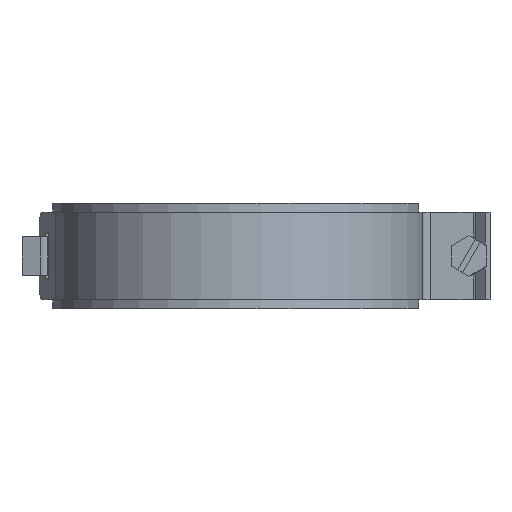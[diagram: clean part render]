
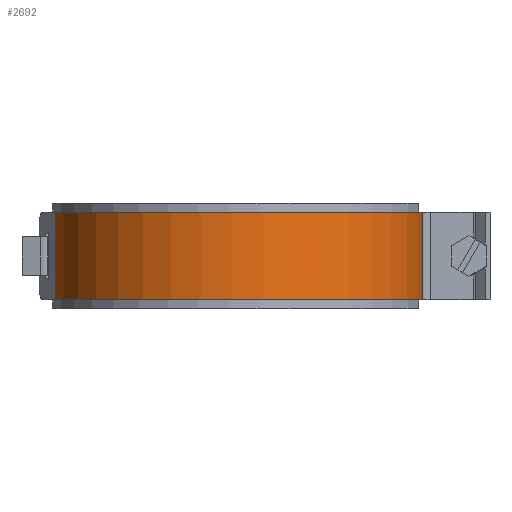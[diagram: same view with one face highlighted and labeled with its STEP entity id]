
A CAD part, front view. The second image highlights one B-rep face of the part: STEP entity #2692.
In plain terms, the highlighted cylindrical face has radius 53 mm (diameter 106 mm), a partial arc.
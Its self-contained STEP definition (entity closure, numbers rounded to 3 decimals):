
#95=CYLINDRICAL_SURFACE($,#2929,53.);
#209=FACE_OUTER_BOUND($,#354,.T.);
#354=EDGE_LOOP($,(#2179,#2180,#2181,#2182,#2183,#2184));
#434=CIRCLE($,#2807,53.);
#436=CIRCLE($,#2810,53.);
#455=CIRCLE($,#2851,53.);
#480=CIRCLE($,#2914,53.);
#691=LINE($,#4365,#950);
#715=LINE($,#4412,#974);
#950=VECTOR($,#3564,25.);
#974=VECTOR($,#3606,25.);
#1093=VERTEX_POINT($,#3974);
#1094=VERTEX_POINT($,#3976);
#1097=VERTEX_POINT($,#3984);
#1098=VERTEX_POINT($,#3985);
#1139=VERTEX_POINT($,#4113);
#1209=VERTEX_POINT($,#4337);
#1371=EDGE_CURVE($,#1093,#1094,#434,.T.);
#1375=EDGE_CURVE($,#1097,#1098,#436,.T.);
#1440=EDGE_CURVE($,#1094,#1139,#455,.T.);
#1538=EDGE_CURVE($,#1209,#1097,#480,.T.);
#1551=EDGE_CURVE($,#1093,#1098,#691,.T.);
#1575=EDGE_CURVE($,#1139,#1209,#715,.T.);
#2179=ORIENTED_EDGE($,*,*,#1575,.F.);
#2180=ORIENTED_EDGE($,*,*,#1440,.F.);
#2181=ORIENTED_EDGE($,*,*,#1371,.F.);
#2182=ORIENTED_EDGE($,*,*,#1551,.T.);
#2183=ORIENTED_EDGE($,*,*,#1375,.F.);
#2184=ORIENTED_EDGE($,*,*,#1538,.F.);
#2692=ADVANCED_FACE($,(#209),#95,.T.);
#2807=AXIS2_PLACEMENT_3D($,#3977,#3210,#3211);
#2810=AXIS2_PLACEMENT_3D($,#3986,#3218,#3219);
#2851=AXIS2_PLACEMENT_3D($,#4114,#3346,#3347);
#2914=AXIS2_PLACEMENT_3D($,#4339,#3542,#3543);
#2929=AXIS2_PLACEMENT_3D($,#4413,#3607,#3608);
#3210=DIRECTION('center_axis',(0.,0.,1.));
#3211=DIRECTION('ref_axis',(0.98,0.199,0.));
#3218=DIRECTION('center_axis',(0.,0.,-1.));
#3219=DIRECTION('ref_axis',(0.98,0.199,0.));
#3346=DIRECTION('center_axis',(0.,0.,1.));
#3347=DIRECTION('ref_axis',(0.98,0.199,0.));
#3542=DIRECTION('center_axis',(0.,0.,-1.));
#3543=DIRECTION('ref_axis',(0.98,0.199,0.));
#3564=DIRECTION($,(0.,0.,-1.));
#3606=DIRECTION($,(0.,0.,-1.));
#3607=DIRECTION('center_axis',(0.,0.,1.));
#3608=DIRECTION('ref_axis',(0.98,0.199,0.));
#3974=CARTESIAN_POINT('',(-51.936,-10.567,12.5));
#3976=CARTESIAN_POINT('',(51.194,-13.717,12.5));
#3977=CARTESIAN_POINT('Origin',(0.,0.,12.5));
#3984=CARTESIAN_POINT('',(51.194,-13.717,-12.5));
#3985=CARTESIAN_POINT('',(-51.936,-10.567,-12.5));
#3986=CARTESIAN_POINT('Origin',(0.,0.,-12.5));
#4113=CARTESIAN_POINT('',(52.635,-6.207,12.5));
#4114=CARTESIAN_POINT('Origin',(0.,0.,12.5));
#4337=CARTESIAN_POINT('',(52.635,-6.207,-12.5));
#4339=CARTESIAN_POINT('Origin',(0.,0.,-12.5));
#4365=CARTESIAN_POINT($,(-51.936,-10.567,0.));
#4412=CARTESIAN_POINT($,(52.635,-6.207,0.));
#4413=CARTESIAN_POINT('Origin',(0.,0.,0.));
